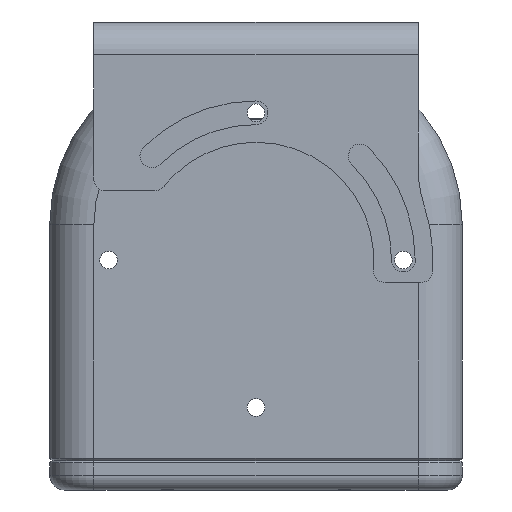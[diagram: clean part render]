
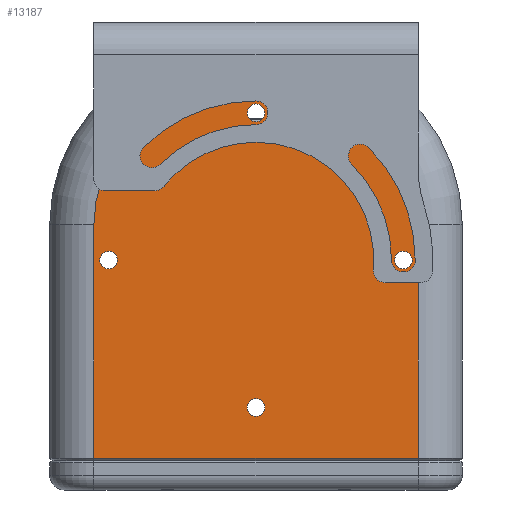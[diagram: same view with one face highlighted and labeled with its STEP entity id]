
A CAD part, left-side view. The second image highlights one B-rep face of the part: STEP entity #13187.
In plain terms, the highlighted planar face has unit normal (-1, 0, 0).
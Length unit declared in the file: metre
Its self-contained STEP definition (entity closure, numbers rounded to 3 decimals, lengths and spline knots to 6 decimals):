
#478 = FACE_BOUND ( 'NONE', #39448, .T. ) ;
#842 = ORIENTED_EDGE ( 'NONE', *, *, #10197, .F. ) ;
#1922 = CIRCLE ( 'NONE', #38175, 0.001899 ) ;
#1993 = ORIENTED_EDGE ( 'NONE', *, *, #9441, .F. ) ;
#2093 = DIRECTION ( 'NONE',  ( 0., 0., 1. ) ) ;
#2195 = ORIENTED_EDGE ( 'NONE', *, *, #12208, .F. ) ;
#2203 = AXIS2_PLACEMENT_3D ( 'NONE', #38833, #38425, #26066 ) ;
#2402 = VERTEX_POINT ( 'NONE', #9755 ) ;
#2973 = EDGE_LOOP ( 'NONE', ( #8683, #27922, #20796, #20988, #26363, #5365 ) ) ;
#3300 = EDGE_CURVE ( 'NONE', #30319, #29622, #11644, .T. ) ;
#3582 = VECTOR ( 'NONE', #19002, 1. ) ;
#3963 = FACE_BOUND ( 'NONE', #40747, .T. ) ;
#4207 = CARTESIAN_POINT ( 'NONE',  ( -0.08255, 0.00635, 0.0508 ) ) ;
#4505 = DIRECTION ( 'NONE',  ( -1., 0., 0. ) ) ;
#4922 = CARTESIAN_POINT ( 'NONE',  ( -0.08255, 0., 0.009531 ) ) ;
#4959 = EDGE_CURVE ( 'NONE', #2402, #6365, #39327, .T. ) ;
#5365 = ORIENTED_EDGE ( 'NONE', *, *, #33004, .T. ) ;
#5367 = CARTESIAN_POINT ( 'NONE',  ( -0.08255, 0.00635, 0.079375 ) ) ;
#5813 = DIRECTION ( 'NONE',  ( -1., 0., 0. ) ) ;
#5974 = LINE ( 'NONE', #12149, #3582 ) ;
#6365 = VERTEX_POINT ( 'NONE', #16118 ) ;
#6818 = CARTESIAN_POINT ( 'NONE',  ( -0.08255, 0.034925, 0.0508 ) ) ;
#6939 = DIRECTION ( 'NONE',  ( -1., 0., 0. ) ) ;
#7336 = CARTESIAN_POINT ( 'NONE',  ( -0.08255, 0.03175, 0.04318 ) ) ;
#7502 = ORIENTED_EDGE ( 'NONE', *, *, #10664, .F. ) ;
#8028 = VERTEX_POINT ( 'NONE', #6818 ) ;
#8102 = EDGE_LOOP ( 'NONE', ( #11173, #7502 ) ) ;
#8217 = CARTESIAN_POINT ( 'NONE',  ( -0.08255, -0.034925, 0.0889 ) ) ;
#8631 = VECTOR ( 'NONE', #9500, 1. ) ;
#8666 = AXIS2_PLACEMENT_3D ( 'NONE', #14270, #5813, #20694 ) ;
#8683 = ORIENTED_EDGE ( 'NONE', *, *, #16246, .T. ) ;
#9044 = CARTESIAN_POINT ( 'NONE',  ( -0.08255, -0.034925, 0.0508 ) ) ;
#9441 = EDGE_CURVE ( 'NONE', #30271, #25510, #30800, .T. ) ;
#9500 = DIRECTION ( 'NONE',  ( 0., 0., -1. ) ) ;
#9587 = DIRECTION ( 'NONE',  ( 0., 0., 1. ) ) ;
#9755 = CARTESIAN_POINT ( 'NONE',  ( -0.08255, 0.03175, 0.041281 ) ) ;
#9899 = CARTESIAN_POINT ( 'NONE',  ( -0.08255, 0.034925, 0.0889 ) ) ;
#10197 = EDGE_CURVE ( 'NONE', #25510, #30271, #19634, .T. ) ;
#10664 = EDGE_CURVE ( 'NONE', #29622, #30319, #17055, .T. ) ;
#11173 = ORIENTED_EDGE ( 'NONE', *, *, #3300, .F. ) ;
#11277 = CIRCLE ( 'NONE', #8666, 0.028575 ) ;
#11393 = VECTOR ( 'NONE', #2093, 1. ) ;
#11644 = CIRCLE ( 'NONE', #23612, 0.001899 ) ;
#12149 = CARTESIAN_POINT ( 'NONE',  ( -0.08255, 0.04445, 0.000508 ) ) ;
#12208 = EDGE_CURVE ( 'NONE', #18180, #34583, #17769, .T. ) ;
#13187 = ADVANCED_FACE ( 'NONE', ( #478, #3963, #35131, #16116, #16345 ), #29148, .F. ) ;
#13465 = EDGE_CURVE ( 'NONE', #6365, #2402, #14067, .T. ) ;
#13846 = EDGE_LOOP ( 'NONE', ( #2195, #39440 ) ) ;
#14067 = CIRCLE ( 'NONE', #31282, 0.001899 ) ;
#14137 = DIRECTION ( 'NONE',  ( 0., 0., 1. ) ) ;
#14167 = VERTEX_POINT ( 'NONE', #34895 ) ;
#14270 = CARTESIAN_POINT ( 'NONE',  ( -0.08255, -0.00635, 0.0508 ) ) ;
#14889 = CARTESIAN_POINT ( 'NONE',  ( -0.08255, -0.00635, 0.079375 ) ) ;
#15315 = EDGE_CURVE ( 'NONE', #29423, #26357, #11277, .T. ) ;
#15524 = LINE ( 'NONE', #9899, #8631 ) ;
#15819 = DIRECTION ( 'NONE',  ( -1., 0., 0. ) ) ;
#16116 = FACE_BOUND ( 'NONE', #8102, .T. ) ;
#16118 = CARTESIAN_POINT ( 'NONE',  ( -0.08255, 0.03175, 0.045079 ) ) ;
#16246 = EDGE_CURVE ( 'NONE', #8028, #35871, #15524, .T. ) ;
#16345 = FACE_OUTER_BOUND ( 'NONE', #2973, .T. ) ;
#16519 = EDGE_CURVE ( 'NONE', #26357, #28896, #27301, .T. ) ;
#16781 = DIRECTION ( 'NONE',  ( -1., 0., 0. ) ) ;
#16889 = DIRECTION ( 'NONE',  ( 0., 0., 1. ) ) ;
#17055 = CIRCLE ( 'NONE', #32215, 0.001899 ) ;
#17118 = AXIS2_PLACEMENT_3D ( 'NONE', #4207, #16781, #38886 ) ;
#17769 = CIRCLE ( 'NONE', #27045, 0.001899 ) ;
#18052 = CARTESIAN_POINT ( 'NONE',  ( -0.08255, 0., 0.073031 ) ) ;
#18180 = VERTEX_POINT ( 'NONE', #25394 ) ;
#19002 = DIRECTION ( 'NONE',  ( 0., -1., 0. ) ) ;
#19634 = CIRCLE ( 'NONE', #37473, 0.001899 ) ;
#19709 = CARTESIAN_POINT ( 'NONE',  ( -0.08255, 0.034925, 0.000508 ) ) ;
#20173 = CARTESIAN_POINT ( 'NONE',  ( -0.08255, 0., 0.01143 ) ) ;
#20408 = CARTESIAN_POINT ( 'NONE',  ( -0.08255, 0., 0.076829 ) ) ;
#20416 = ORIENTED_EDGE ( 'NONE', *, *, #13465, .F. ) ;
#20694 = DIRECTION ( 'NONE',  ( 0., 1., 0. ) ) ;
#20796 = ORIENTED_EDGE ( 'NONE', *, *, #36147, .T. ) ;
#20988 = ORIENTED_EDGE ( 'NONE', *, *, #15315, .T. ) ;
#21141 = DIRECTION ( 'NONE',  ( -1., 0., 0. ) ) ;
#21893 = ORIENTED_EDGE ( 'NONE', *, *, #4959, .F. ) ;
#22529 = CARTESIAN_POINT ( 'NONE',  ( -0.08255, -0.03175, 0.04318 ) ) ;
#23612 = AXIS2_PLACEMENT_3D ( 'NONE', #36689, #37521, #37091 ) ;
#24186 = DIRECTION ( 'NONE',  ( 0., 1., 0. ) ) ;
#25241 = DIRECTION ( 'NONE',  ( -1., 0., 0. ) ) ;
#25394 = CARTESIAN_POINT ( 'NONE',  ( -0.08255, -0.03175, 0.045079 ) ) ;
#25510 = VERTEX_POINT ( 'NONE', #37111 ) ;
#25744 = CIRCLE ( 'NONE', #17118, 0.028575 ) ;
#26027 = DIRECTION ( 'NONE',  ( -1., 0., 0. ) ) ;
#26066 = DIRECTION ( 'NONE',  ( 0., 1., 0. ) ) ;
#26357 = VERTEX_POINT ( 'NONE', #14889 ) ;
#26363 = ORIENTED_EDGE ( 'NONE', *, *, #16519, .T. ) ;
#27045 = AXIS2_PLACEMENT_3D ( 'NONE', #34314, #31202, #40497 ) ;
#27301 = LINE ( 'NONE', #5367, #39028 ) ;
#27922 = ORIENTED_EDGE ( 'NONE', *, *, #35241, .T. ) ;
#28896 = VERTEX_POINT ( 'NONE', #29792 ) ;
#29148 = PLANE ( 'NONE',  #2203 ) ;
#29309 = DIRECTION ( 'NONE',  ( 0., 0., 1. ) ) ;
#29423 = VERTEX_POINT ( 'NONE', #9044 ) ;
#29622 = VERTEX_POINT ( 'NONE', #18052 ) ;
#29792 = CARTESIAN_POINT ( 'NONE',  ( -0.08255, 0.00635, 0.079375 ) ) ;
#30271 = VERTEX_POINT ( 'NONE', #4922 ) ;
#30319 = VERTEX_POINT ( 'NONE', #20408 ) ;
#30800 = CIRCLE ( 'NONE', #34759, 0.001899 ) ;
#30856 = CARTESIAN_POINT ( 'NONE',  ( -0.08255, 0., 0.01143 ) ) ;
#31202 = DIRECTION ( 'NONE',  ( -1., 0., 0. ) ) ;
#31282 = AXIS2_PLACEMENT_3D ( 'NONE', #34627, #15819, #9587 ) ;
#32215 = AXIS2_PLACEMENT_3D ( 'NONE', #35334, #25241, #32231 ) ;
#32231 = DIRECTION ( 'NONE',  ( 0., 0., 1. ) ) ;
#33004 = EDGE_CURVE ( 'NONE', #28896, #8028, #25744, .T. ) ;
#33266 = LINE ( 'NONE', #8217, #11393 ) ;
#33736 = DIRECTION ( 'NONE',  ( 0., 0., 1. ) ) ;
#34314 = CARTESIAN_POINT ( 'NONE',  ( -0.08255, -0.03175, 0.04318 ) ) ;
#34583 = VERTEX_POINT ( 'NONE', #35105 ) ;
#34627 = CARTESIAN_POINT ( 'NONE',  ( -0.08255, 0.03175, 0.04318 ) ) ;
#34759 = AXIS2_PLACEMENT_3D ( 'NONE', #20173, #4505, #14137 ) ;
#34895 = CARTESIAN_POINT ( 'NONE',  ( -0.08255, -0.034925, 0.000508 ) ) ;
#35105 = CARTESIAN_POINT ( 'NONE',  ( -0.08255, -0.03175, 0.041281 ) ) ;
#35131 = FACE_BOUND ( 'NONE', #13846, .T. ) ;
#35241 = EDGE_CURVE ( 'NONE', #35871, #14167, #5974, .T. ) ;
#35334 = CARTESIAN_POINT ( 'NONE',  ( -0.08255, 0., 0.07493 ) ) ;
#35871 = VERTEX_POINT ( 'NONE', #19709 ) ;
#36147 = EDGE_CURVE ( 'NONE', #14167, #29423, #33266, .T. ) ;
#36689 = CARTESIAN_POINT ( 'NONE',  ( -0.08255, 0., 0.07493 ) ) ;
#37091 = DIRECTION ( 'NONE',  ( 0., 0., 1. ) ) ;
#37111 = CARTESIAN_POINT ( 'NONE',  ( -0.08255, 0., 0.013329 ) ) ;
#37473 = AXIS2_PLACEMENT_3D ( 'NONE', #30856, #21141, #33736 ) ;
#37521 = DIRECTION ( 'NONE',  ( -1., 0., 0. ) ) ;
#38043 = AXIS2_PLACEMENT_3D ( 'NONE', #7336, #6939, #16889 ) ;
#38175 = AXIS2_PLACEMENT_3D ( 'NONE', #22529, #26027, #29309 ) ;
#38425 = DIRECTION ( 'NONE',  ( 1., 0., 0. ) ) ;
#38833 = CARTESIAN_POINT ( 'NONE',  ( -0.08255, 0.04445, 0.0889 ) ) ;
#38886 = DIRECTION ( 'NONE',  ( 0., 1., 0. ) ) ;
#39028 = VECTOR ( 'NONE', #24186, 1. ) ;
#39327 = CIRCLE ( 'NONE', #38043, 0.001899 ) ;
#39440 = ORIENTED_EDGE ( 'NONE', *, *, #39513, .F. ) ;
#39448 = EDGE_LOOP ( 'NONE', ( #20416, #21893 ) ) ;
#39513 = EDGE_CURVE ( 'NONE', #34583, #18180, #1922, .T. ) ;
#40497 = DIRECTION ( 'NONE',  ( 0., 0., 1. ) ) ;
#40747 = EDGE_LOOP ( 'NONE', ( #842, #1993 ) ) ;
